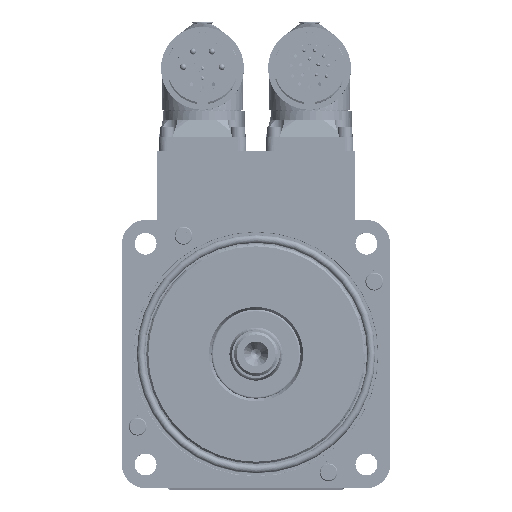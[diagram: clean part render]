
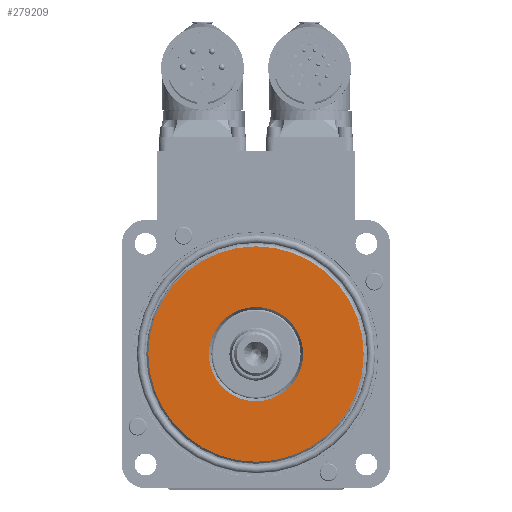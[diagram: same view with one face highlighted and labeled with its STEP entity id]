
A CAD part, top view. The second image highlights one B-rep face of the part: STEP entity #279209.
In plain terms, the highlighted planar face has unit normal (0, 0, 1).
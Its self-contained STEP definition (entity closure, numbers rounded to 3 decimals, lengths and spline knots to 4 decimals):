
#7558 = AXIS2_PLACEMENT_3D ( 'NONE', #357705, #587733, #170110 ) ;
#41710 = VERTEX_POINT ( 'NONE', #478044 ) ;
#49601 = DIRECTION ( 'NONE',  ( -1., 0., 0. ) ) ;
#58575 = DIRECTION ( 'NONE',  ( 0., 0., -1. ) ) ;
#79770 = DIRECTION ( 'NONE',  ( 1., 0., 0. ) ) ;
#82664 = CIRCLE ( 'NONE', #314592, 0.5943 ) ;
#91454 = ORIENTED_EDGE ( 'NONE', *, *, #343690, .F. ) ;
#131110 = FACE_OUTER_BOUND ( 'NONE', #416670, .T. ) ;
#145731 = CARTESIAN_POINT ( 'NONE',  ( 1.358, 0., -1.0639 ) ) ;
#146344 = CARTESIAN_POINT ( 'NONE',  ( 0., 0., -1.0639 ) ) ;
#158977 = CARTESIAN_POINT ( 'NONE',  ( 0., 0., -1.0639 ) ) ;
#170110 = DIRECTION ( 'NONE',  ( -1., 0., 0. ) ) ;
#176443 = CARTESIAN_POINT ( 'NONE',  ( 0., 1.358, -1.0639 ) ) ;
#191714 = CARTESIAN_POINT ( 'NONE',  ( 0., 0., -1.0639 ) ) ;
#200191 = CIRCLE ( 'NONE', #325974, 1.358 ) ;
#223554 = VERTEX_POINT ( 'NONE', #299863 ) ;
#227768 = PLANE ( 'NONE',  #574113 ) ;
#230986 = EDGE_CURVE ( 'NONE', #259445, #41710, #82664, .T. ) ;
#250984 = CIRCLE ( 'NONE', #415212, 1.358 ) ;
#257246 = EDGE_CURVE ( 'NONE', #41710, #259445, #287977, .T. ) ;
#259445 = VERTEX_POINT ( 'NONE', #262685 ) ;
#262685 = CARTESIAN_POINT ( 'NONE',  ( -0.5943, 0., -1.0639 ) ) ;
#274833 = ORIENTED_EDGE ( 'NONE', *, *, #555186, .F. ) ;
#279209 = ADVANCED_FACE ( 'NONE', ( #318679, #131110 ), #227768, .T. ) ;
#287977 = CIRCLE ( 'NONE', #7558, 0.5943 ) ;
#299863 = CARTESIAN_POINT ( 'NONE',  ( -1.358, 0., -1.0639 ) ) ;
#314592 = AXIS2_PLACEMENT_3D ( 'NONE', #146344, #597451, #49601 ) ;
#318679 = FACE_BOUND ( 'NONE', #486185, .T. ) ;
#325974 = AXIS2_PLACEMENT_3D ( 'NONE', #191714, #58575, #430750 ) ;
#327690 = VERTEX_POINT ( 'NONE', #145731 ) ;
#343594 = DIRECTION ( 'NONE',  ( 0., 0., -1. ) ) ;
#343690 = EDGE_CURVE ( 'NONE', #223554, #327690, #200191, .T. ) ;
#357705 = CARTESIAN_POINT ( 'NONE',  ( 0., 0., -1.0639 ) ) ;
#397916 = DIRECTION ( 'NONE',  ( -1., 0., 0. ) ) ;
#415212 = AXIS2_PLACEMENT_3D ( 'NONE', #158977, #343594, #397916 ) ;
#416670 = EDGE_LOOP ( 'NONE', ( #91454, #274833 ) ) ;
#430750 = DIRECTION ( 'NONE',  ( -1., 0., 0. ) ) ;
#478044 = CARTESIAN_POINT ( 'NONE',  ( 0.5943, 0., -1.0639 ) ) ;
#486185 = EDGE_LOOP ( 'NONE', ( #490555, #555148 ) ) ;
#490555 = ORIENTED_EDGE ( 'NONE', *, *, #257246, .T. ) ;
#497355 = DIRECTION ( 'NONE',  ( 0., 0., 1. ) ) ;
#555148 = ORIENTED_EDGE ( 'NONE', *, *, #230986, .T. ) ;
#555186 = EDGE_CURVE ( 'NONE', #327690, #223554, #250984, .T. ) ;
#574113 = AXIS2_PLACEMENT_3D ( 'NONE', #176443, #497355, #79770 ) ;
#587733 = DIRECTION ( 'NONE',  ( 0., 0., -1. ) ) ;
#597451 = DIRECTION ( 'NONE',  ( 0., 0., -1. ) ) ;
